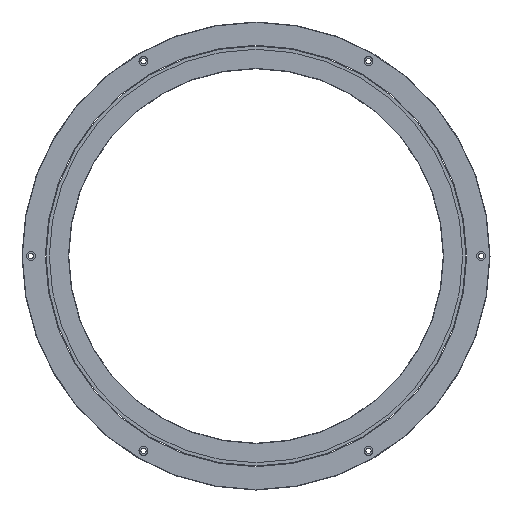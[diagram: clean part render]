
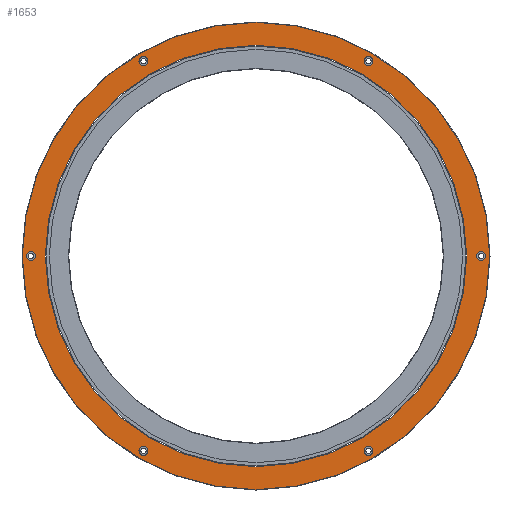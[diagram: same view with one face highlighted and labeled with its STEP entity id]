
A CAD part, front view. The second image highlights one B-rep face of the part: STEP entity #1653.
In plain terms, the highlighted planar face has unit normal (0, -1, 0).
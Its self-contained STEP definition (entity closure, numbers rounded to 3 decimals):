
#371=CARTESIAN_POINT('',(0.,0.,0.));
#372=DIRECTION('',(0.,-1.,0.));
#373=DIRECTION('',(-1.,0.,0.));
#374=AXIS2_PLACEMENT_3D('',#371,#372,#373);
#376=CARTESIAN_POINT('',(0.,0.,0.));
#377=DIRECTION('',(0.,1.,0.));
#378=DIRECTION('',(-1.,0.,0.));
#379=AXIS2_PLACEMENT_3D('',#376,#377,#378);
#381=CARTESIAN_POINT('',(-300.5,0.,0.));
#382=DIRECTION('',(0.,1.,0.));
#383=DIRECTION('',(1.,0.,0.));
#384=AXIS2_PLACEMENT_3D('',#381,#382,#383);
#386=CARTESIAN_POINT('',(-300.5,0.,0.));
#387=DIRECTION('',(0.,1.,0.));
#388=DIRECTION('',(-1.,0.,0.));
#389=AXIS2_PLACEMENT_3D('',#386,#387,#388);
#391=CARTESIAN_POINT('',(-150.25,0.,260.241));
#392=DIRECTION('',(0.,1.,0.));
#393=DIRECTION('',(0.5,0.,-0.866));
#394=AXIS2_PLACEMENT_3D('',#391,#392,#393);
#396=CARTESIAN_POINT('',(-150.25,0.,260.241));
#397=DIRECTION('',(0.,1.,0.));
#398=DIRECTION('',(-0.5,0.,0.866));
#399=AXIS2_PLACEMENT_3D('',#396,#397,#398);
#401=CARTESIAN_POINT('',(150.25,0.,260.241));
#402=DIRECTION('',(0.,1.,0.));
#403=DIRECTION('',(-0.5,0.,-0.866));
#404=AXIS2_PLACEMENT_3D('',#401,#402,#403);
#406=CARTESIAN_POINT('',(150.25,0.,260.241));
#407=DIRECTION('',(0.,1.,0.));
#408=DIRECTION('',(0.5,0.,0.866));
#409=AXIS2_PLACEMENT_3D('',#406,#407,#408);
#411=CARTESIAN_POINT('',(300.5,0.,0.));
#412=DIRECTION('',(0.,1.,0.));
#413=DIRECTION('',(-1.,0.,0.));
#414=AXIS2_PLACEMENT_3D('',#411,#412,#413);
#416=CARTESIAN_POINT('',(300.5,0.,0.));
#417=DIRECTION('',(0.,1.,0.));
#418=DIRECTION('',(1.,0.,0.));
#419=AXIS2_PLACEMENT_3D('',#416,#417,#418);
#421=CARTESIAN_POINT('',(150.25,0.,-260.241));
#422=DIRECTION('',(0.,1.,0.));
#423=DIRECTION('',(-0.5,0.,0.866));
#424=AXIS2_PLACEMENT_3D('',#421,#422,#423);
#426=CARTESIAN_POINT('',(150.25,0.,-260.241));
#427=DIRECTION('',(0.,1.,0.));
#428=DIRECTION('',(0.5,0.,-0.866));
#429=AXIS2_PLACEMENT_3D('',#426,#427,#428);
#431=CARTESIAN_POINT('',(-150.25,0.,-260.241));
#432=DIRECTION('',(0.,1.,0.));
#433=DIRECTION('',(0.5,0.,0.866));
#434=AXIS2_PLACEMENT_3D('',#431,#432,#433);
#436=CARTESIAN_POINT('',(-150.25,0.,-260.241));
#437=DIRECTION('',(0.,1.,0.));
#438=DIRECTION('',(-0.5,0.,-0.866));
#439=AXIS2_PLACEMENT_3D('',#436,#437,#438);
#441=CARTESIAN_POINT('',(0.,0.,0.));
#442=DIRECTION('',(0.,1.,0.));
#443=DIRECTION('',(-1.,0.,0.));
#444=AXIS2_PLACEMENT_3D('',#441,#442,#443);
#446=CARTESIAN_POINT('',(0.,0.,0.));
#447=DIRECTION('',(0.,1.,0.));
#448=DIRECTION('',(1.,0.,0.));
#449=AXIS2_PLACEMENT_3D('',#446,#447,#448);
#919=CARTESIAN_POINT('',(-294.5,0.,0.));
#920=VERTEX_POINT('',#919);
#921=CARTESIAN_POINT('',(-306.5,0.,0.));
#922=VERTEX_POINT('',#921);
#931=CARTESIAN_POINT('',(-147.25,0.,255.044));
#932=VERTEX_POINT('',#931);
#933=CARTESIAN_POINT('',(-153.25,0.,265.437));
#934=VERTEX_POINT('',#933);
#943=CARTESIAN_POINT('',(147.25,0.,255.044));
#944=VERTEX_POINT('',#943);
#945=CARTESIAN_POINT('',(153.25,0.,265.437));
#946=VERTEX_POINT('',#945);
#955=CARTESIAN_POINT('',(294.5,0.,0.));
#956=VERTEX_POINT('',#955);
#957=CARTESIAN_POINT('',(306.5,0.,0.));
#958=VERTEX_POINT('',#957);
#976=CARTESIAN_POINT('',(-281.3,0.,0.));
#978=VERTEX_POINT('',#976);
#980=CARTESIAN_POINT('',(281.3,0.,0.));
#982=VERTEX_POINT('',#980);
#995=CARTESIAN_POINT('',(-312.,0.,0.));
#996=CARTESIAN_POINT('',(312.,0.,0.));
#997=VERTEX_POINT('',#995);
#998=VERTEX_POINT('',#996);
#1043=CARTESIAN_POINT('',(147.25,0.,-255.044));
#1044=CARTESIAN_POINT('',(153.25,0.,-265.437));
#1045=VERTEX_POINT('',#1043);
#1046=VERTEX_POINT('',#1044);
#1055=CARTESIAN_POINT('',(-147.25,0.,-255.044));
#1056=CARTESIAN_POINT('',(-153.25,0.,-265.437));
#1057=VERTEX_POINT('',#1055);
#1058=VERTEX_POINT('',#1056);
#1604=CARTESIAN_POINT('',(0.,0.,0.));
#1605=DIRECTION('',(0.,1.,0.));
#1606=DIRECTION('',(1.,0.,0.));
#1607=AXIS2_PLACEMENT_3D('',#1604,#1605,#1606);
#1608=PLANE('',#1607);
#1609=ORIENTED_EDGE('',*,*,#1090,.T.);
#1610=ORIENTED_EDGE('',*,*,#1105,.T.);
#1611=EDGE_LOOP('',(#1609,#1610));
#1612=FACE_OUTER_BOUND('',#1611,.F.);
#1614=ORIENTED_EDGE('',*,*,#1613,.F.);
#1616=ORIENTED_EDGE('',*,*,#1615,.F.);
#1617=EDGE_LOOP('',(#1614,#1616));
#1618=FACE_BOUND('',#1617,.F.);
#1620=ORIENTED_EDGE('',*,*,#1619,.F.);
#1622=ORIENTED_EDGE('',*,*,#1621,.F.);
#1623=EDGE_LOOP('',(#1620,#1622));
#1624=FACE_BOUND('',#1623,.F.);
#1626=ORIENTED_EDGE('',*,*,#1625,.F.);
#1628=ORIENTED_EDGE('',*,*,#1627,.F.);
#1629=EDGE_LOOP('',(#1626,#1628));
#1630=FACE_BOUND('',#1629,.F.);
#1632=ORIENTED_EDGE('',*,*,#1631,.F.);
#1634=ORIENTED_EDGE('',*,*,#1633,.F.);
#1635=EDGE_LOOP('',(#1632,#1634));
#1636=FACE_BOUND('',#1635,.F.);
#1638=ORIENTED_EDGE('',*,*,#1637,.F.);
#1640=ORIENTED_EDGE('',*,*,#1639,.F.);
#1641=EDGE_LOOP('',(#1638,#1640));
#1642=FACE_BOUND('',#1641,.F.);
#1644=ORIENTED_EDGE('',*,*,#1643,.F.);
#1646=ORIENTED_EDGE('',*,*,#1645,.F.);
#1647=EDGE_LOOP('',(#1644,#1646));
#1648=FACE_BOUND('',#1647,.F.);
#1649=ORIENTED_EDGE('',*,*,#1599,.T.);
#1650=ORIENTED_EDGE('',*,*,#1583,.F.);
#1651=EDGE_LOOP('',(#1649,#1650));
#1652=FACE_BOUND('',#1651,.F.);
#375=CIRCLE('',#374,281.3);
#380=CIRCLE('',#379,281.3);
#385=CIRCLE('',#384,6.);
#390=CIRCLE('',#389,6.);
#395=CIRCLE('',#394,6.);
#400=CIRCLE('',#399,6.);
#405=CIRCLE('',#404,6.);
#410=CIRCLE('',#409,6.);
#415=CIRCLE('',#414,6.);
#420=CIRCLE('',#419,6.);
#425=CIRCLE('',#424,6.);
#430=CIRCLE('',#429,6.);
#435=CIRCLE('',#434,6.);
#440=CIRCLE('',#439,6.);
#445=CIRCLE('',#444,312.);
#450=CIRCLE('',#449,312.);
#1090=EDGE_CURVE('',#997,#998,#445,.T.);
#1105=EDGE_CURVE('',#998,#997,#450,.T.);
#1583=EDGE_CURVE('',#978,#982,#380,.T.);
#1599=EDGE_CURVE('',#978,#982,#375,.T.);
#1613=EDGE_CURVE('',#920,#922,#385,.T.);
#1615=EDGE_CURVE('',#922,#920,#390,.T.);
#1619=EDGE_CURVE('',#932,#934,#395,.T.);
#1621=EDGE_CURVE('',#934,#932,#400,.T.);
#1625=EDGE_CURVE('',#944,#946,#405,.T.);
#1627=EDGE_CURVE('',#946,#944,#410,.T.);
#1631=EDGE_CURVE('',#956,#958,#415,.T.);
#1633=EDGE_CURVE('',#958,#956,#420,.T.);
#1637=EDGE_CURVE('',#1045,#1046,#425,.T.);
#1639=EDGE_CURVE('',#1046,#1045,#430,.T.);
#1643=EDGE_CURVE('',#1057,#1058,#435,.T.);
#1645=EDGE_CURVE('',#1058,#1057,#440,.T.);
#1653=ADVANCED_FACE('',(#1612,#1618,#1624,#1630,#1636,#1642,#1648,#1652),#1608,
.F.);
